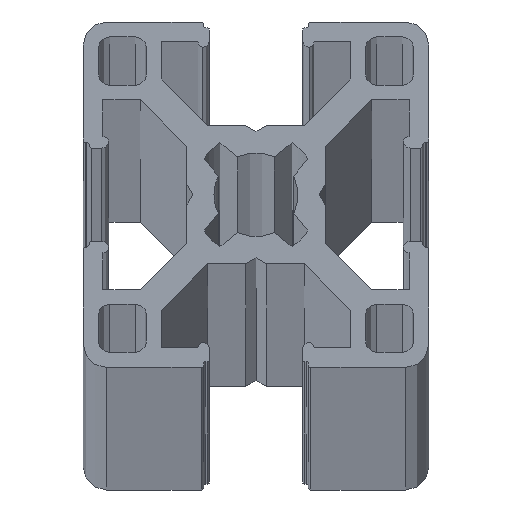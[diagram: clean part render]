
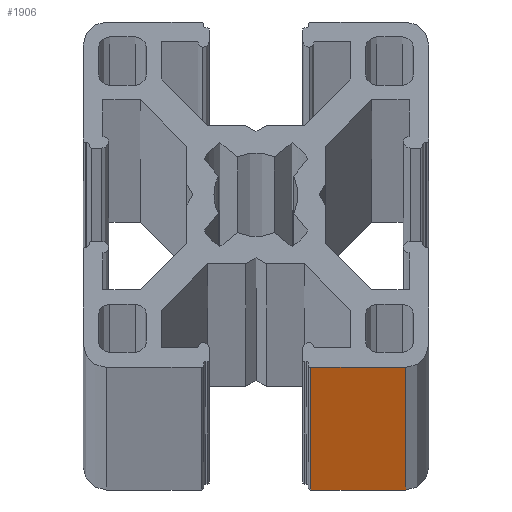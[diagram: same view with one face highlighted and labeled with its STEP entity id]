
A CAD part, top view. The second image highlights one B-rep face of the part: STEP entity #1906.
In plain terms, the highlighted planar face has unit normal (0, -1, 0).
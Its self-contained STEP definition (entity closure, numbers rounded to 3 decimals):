
#6 = CARTESIAN_POINT ( 'NONE',  ( 4.75, -15., 3050. ) ) ;
#13 = PLANE ( 'NONE',  #4057 ) ;
#18 = DIRECTION ( 'NONE',  ( 0., 1., 0. ) ) ;
#19 = DIRECTION ( 'NONE',  ( 0., 0., 1. ) ) ;
#225 = DIRECTION ( 'NONE',  ( 0., 0., -1. ) ) ;
#226 = CARTESIAN_POINT ( 'NONE',  ( 13., -15., 3050. ) ) ;
#956 = CARTESIAN_POINT ( 'NONE',  ( 4.75, -15., -3050. ) ) ;
#1019 = DIRECTION ( 'NONE',  ( 0., 0., -1. ) ) ;
#1052 = DIRECTION ( 'NONE',  ( 1., 0., 0. ) ) ;
#1129 = DIRECTION ( 'NONE',  ( 1., 0., 0. ) ) ;
#1176 = CARTESIAN_POINT ( 'NONE',  ( 4.75, -15., 3050. ) ) ;
#1177 = CARTESIAN_POINT ( 'NONE',  ( 4.75, -15., 3050. ) ) ;
#1284 = FACE_OUTER_BOUND ( 'NONE', #4977, .T. ) ;
#1436 = LINE ( 'NONE', #226, #1437 ) ;
#1437 = VECTOR ( 'NONE', #225, 1000. ) ;
#1468 = VECTOR ( 'NONE', #1019, 1000. ) ;
#1470 = LINE ( 'NONE', #1176, #1468 ) ;
#1479 = LINE ( 'NONE', #956, #1483 ) ;
#1483 = VECTOR ( 'NONE', #1129, 1000. ) ;
#1525 = LINE ( 'NONE', #1177, #1526 ) ;
#1526 = VECTOR ( 'NONE', #1052, 1000. ) ;
#1679 = VERTEX_POINT ( 'NONE', #5706 ) ;
#1683 = VERTEX_POINT ( 'NONE', #5411 ) ;
#1706 = VERTEX_POINT ( 'NONE', #5787 ) ;
#1863 = VERTEX_POINT ( 'NONE', #5810 ) ;
#1906 = ADVANCED_FACE ( 'NONE', ( #1284 ), #13, .F. ) ;
#2286 = EDGE_CURVE ( 'NONE', #1706, #1679, #1436, .T. ) ;
#2306 = EDGE_CURVE ( 'NONE', #1863, #1683, #1470, .T. ) ;
#2310 = EDGE_CURVE ( 'NONE', #1683, #1679, #1479, .T. ) ;
#2335 = EDGE_CURVE ( 'NONE', #1863, #1706, #1525, .T. ) ;
#3279 = ORIENTED_EDGE ( 'NONE', *, *, #2306, .T. ) ;
#3296 = ORIENTED_EDGE ( 'NONE', *, *, #2310, .T. ) ;
#3339 = ORIENTED_EDGE ( 'NONE', *, *, #2286, .F. ) ;
#3423 = ORIENTED_EDGE ( 'NONE', *, *, #2335, .F. ) ;
#4057 = AXIS2_PLACEMENT_3D ( 'NONE', #6, #18, #19 ) ;
#4977 = EDGE_LOOP ( 'NONE', ( #3296, #3339, #3423, #3279 ) ) ;
#5411 = CARTESIAN_POINT ( 'NONE',  ( 4.75, -15., -3050. ) ) ;
#5706 = CARTESIAN_POINT ( 'NONE',  ( 13., -15., -3050. ) ) ;
#5787 = CARTESIAN_POINT ( 'NONE',  ( 13., -15., 3050. ) ) ;
#5810 = CARTESIAN_POINT ( 'NONE',  ( 4.75, -15., 3050. ) ) ;
